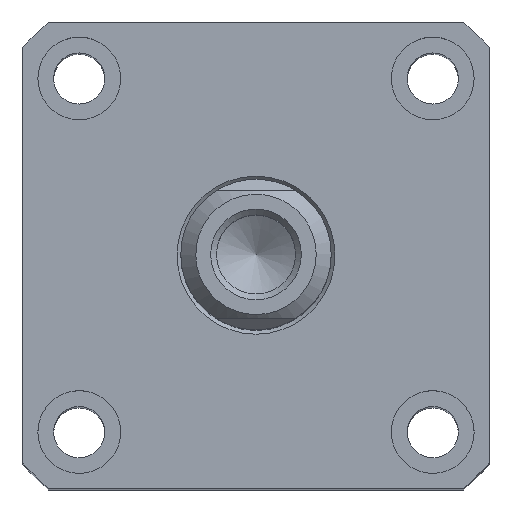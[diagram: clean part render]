
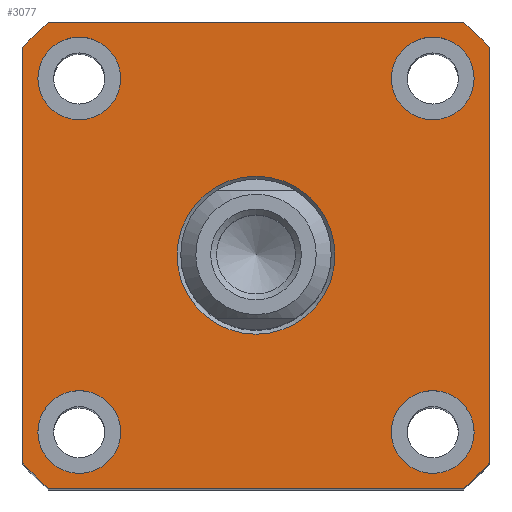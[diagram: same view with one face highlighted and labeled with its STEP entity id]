
A CAD part, top view. The second image highlights one B-rep face of the part: STEP entity #3077.
In plain terms, the highlighted planar face has unit normal (0, 0, 1).
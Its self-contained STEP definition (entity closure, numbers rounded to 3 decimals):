
#3077=ADVANCED_FACE('',(#3798,#3799,#3800,#3801,#3802,#3803),#3478,.T.);
#3478=PLANE('',#10257);
#3798=FACE_BOUND('',#4029,.T.);
#3799=FACE_BOUND('',#4030,.T.);
#3800=FACE_BOUND('',#4031,.T.);
#3801=FACE_BOUND('',#4032,.T.);
#3802=FACE_BOUND('',#4033,.T.);
#3803=FACE_BOUND('',#4034,.T.);
#4029=EDGE_LOOP('',(#6171));
#4030=EDGE_LOOP('',(#6172));
#4031=EDGE_LOOP('',(#6173));
#4032=EDGE_LOOP('',(#6174));
#4033=EDGE_LOOP('',(#6175));
#4034=EDGE_LOOP('',(#6176,#6177,#6178,#6179,#6180,#6181,#6182,#6183));
#4526=LINE('',#12322,#5247);
#4535=LINE('',#12915,#5256);
#4539=LINE('',#12927,#5260);
#4542=LINE('',#12939,#5263);
#5247=VECTOR('',#10626,1.);
#5256=VECTOR('',#10783,1.);
#5260=VECTOR('',#10795,1.);
#5263=VECTOR('',#10812,1.);
#6171=ORIENTED_EDGE('',*,*,#9003,.T.);
#6172=ORIENTED_EDGE('',*,*,#9010,.F.);
#6173=ORIENTED_EDGE('',*,*,#9012,.F.);
#6174=ORIENTED_EDGE('',*,*,#9014,.F.);
#6175=ORIENTED_EDGE('',*,*,#9016,.F.);
#6176=ORIENTED_EDGE('',*,*,#9072,.T.);
#6177=ORIENTED_EDGE('',*,*,#9076,.T.);
#6178=ORIENTED_EDGE('',*,*,#9079,.T.);
#6179=ORIENTED_EDGE('',*,*,#9082,.T.);
#6180=ORIENTED_EDGE('',*,*,#9084,.T.);
#6181=ORIENTED_EDGE('',*,*,#8987,.T.);
#6182=ORIENTED_EDGE('',*,*,#9087,.T.);
#6183=ORIENTED_EDGE('',*,*,#9089,.T.);
#8217=VERTEX_POINT('',#12321);
#8218=VERTEX_POINT('',#12323);
#8233=VERTEX_POINT('',#12483);
#8240=VERTEX_POINT('',#12501);
#8242=VERTEX_POINT('',#12506);
#8244=VERTEX_POINT('',#12511);
#8246=VERTEX_POINT('',#12516);
#8302=VERTEX_POINT('',#12906);
#8303=VERTEX_POINT('',#12908);
#8305=VERTEX_POINT('',#12914);
#8307=VERTEX_POINT('',#12920);
#8309=VERTEX_POINT('',#12926);
#8311=VERTEX_POINT('',#12935);
#8987=EDGE_CURVE('',#8218,#8217,#4526,.T.);
#9003=EDGE_CURVE('',#8233,#8233,#10075,.T.);
#9010=EDGE_CURVE('',#8240,#8240,#10082,.T.);
#9012=EDGE_CURVE('',#8242,#8242,#10084,.T.);
#9014=EDGE_CURVE('',#8244,#8244,#10086,.T.);
#9016=EDGE_CURVE('',#8246,#8246,#10088,.T.);
#9072=EDGE_CURVE('',#8303,#8302,#10109,.T.);
#9076=EDGE_CURVE('',#8302,#8305,#4535,.T.);
#9079=EDGE_CURVE('',#8305,#8307,#10111,.T.);
#9082=EDGE_CURVE('',#8307,#8309,#4539,.T.);
#9084=EDGE_CURVE('',#8309,#8218,#10113,.T.);
#9087=EDGE_CURVE('',#8217,#8311,#10115,.T.);
#9089=EDGE_CURVE('',#8311,#8303,#4542,.T.);
#10075=CIRCLE('',#10192,10.5);
#10082=CIRCLE('',#10203,5.5);
#10084=CIRCLE('',#10206,5.5);
#10086=CIRCLE('',#10209,5.5);
#10088=CIRCLE('',#10212,5.5);
#10109=CIRCLE('',#10243,41.5);
#10111=CIRCLE('',#10247,41.5);
#10113=CIRCLE('',#10251,41.5);
#10115=CIRCLE('',#10254,41.5);
#10192=AXIS2_PLACEMENT_3D('',#12482,#10670,#10671);
#10203=AXIS2_PLACEMENT_3D('',#12500,#10692,#10693);
#10206=AXIS2_PLACEMENT_3D('',#12505,#10698,#10699);
#10209=AXIS2_PLACEMENT_3D('',#12510,#10704,#10705);
#10212=AXIS2_PLACEMENT_3D('',#12515,#10710,#10711);
#10243=AXIS2_PLACEMENT_3D('',#12907,#10776,#10777);
#10247=AXIS2_PLACEMENT_3D('',#12921,#10789,#10790);
#10251=AXIS2_PLACEMENT_3D('',#12930,#10800,#10801);
#10254=AXIS2_PLACEMENT_3D('',#12936,#10807,#10808);
#10257=AXIS2_PLACEMENT_3D('',#12941,#10815,#10816);
#10626=DIRECTION('',(0.,1.,0.));
#10670=DIRECTION('',(0.,0.,-1.));
#10671=DIRECTION('',(1.,0.,0.));
#10692=DIRECTION('',(0.,0.,1.));
#10693=DIRECTION('',(1.,0.,0.));
#10698=DIRECTION('',(0.,0.,1.));
#10699=DIRECTION('',(1.,0.,0.));
#10704=DIRECTION('',(0.,0.,1.));
#10705=DIRECTION('',(1.,0.,0.));
#10710=DIRECTION('',(0.,0.,1.));
#10711=DIRECTION('',(1.,0.,0.));
#10776=DIRECTION('',(0.,0.,1.));
#10777=DIRECTION('',(1.,0.,0.));
#10783=DIRECTION('',(0.,-1.,0.));
#10789=DIRECTION('',(0.,0.,1.));
#10790=DIRECTION('',(1.,0.,0.));
#10795=DIRECTION('',(1.,0.,0.));
#10800=DIRECTION('',(0.,0.,1.));
#10801=DIRECTION('',(1.,0.,0.));
#10807=DIRECTION('',(0.,0.,1.));
#10808=DIRECTION('',(1.,0.,0.));
#10812=DIRECTION('',(-1.,0.,0.));
#10815=DIRECTION('',(0.,0.,1.));
#10816=DIRECTION('',(-1.,0.,0.));
#12321=CARTESIAN_POINT('',(31.,27.591,59.5));
#12322=CARTESIAN_POINT('',(31.,27.591,59.5));
#12323=CARTESIAN_POINT('',(31.,-27.591,59.5));
#12482=CARTESIAN_POINT('',(0.,0.,59.5));
#12483=CARTESIAN_POINT('',(10.5,0.,59.5));
#12500=CARTESIAN_POINT('',(-23.5,-23.5,59.5));
#12501=CARTESIAN_POINT('',(-18.,-23.5,59.5));
#12505=CARTESIAN_POINT('',(-23.5,23.5,59.5));
#12506=CARTESIAN_POINT('',(-18.,23.5,59.5));
#12510=CARTESIAN_POINT('',(23.5,-23.5,59.5));
#12511=CARTESIAN_POINT('',(29.,-23.5,59.5));
#12515=CARTESIAN_POINT('',(23.5,23.5,59.5));
#12516=CARTESIAN_POINT('',(29.,23.5,59.5));
#12906=CARTESIAN_POINT('',(-31.,27.591,59.5));
#12907=CARTESIAN_POINT('',(0.,0.,59.5));
#12908=CARTESIAN_POINT('',(-27.591,31.,59.5));
#12914=CARTESIAN_POINT('',(-31.,-27.591,59.5));
#12915=CARTESIAN_POINT('',(-31.,27.591,59.5));
#12920=CARTESIAN_POINT('',(-27.591,-31.,59.5));
#12921=CARTESIAN_POINT('',(0.,0.,59.5));
#12926=CARTESIAN_POINT('',(27.591,-31.,59.5));
#12927=CARTESIAN_POINT('',(-27.591,-31.,59.5));
#12930=CARTESIAN_POINT('',(0.,0.,59.5));
#12935=CARTESIAN_POINT('',(27.591,31.,59.5));
#12936=CARTESIAN_POINT('',(0.,0.,59.5));
#12939=CARTESIAN_POINT('',(-27.591,31.,59.5));
#12941=CARTESIAN_POINT('',(0.,0.,59.5));
